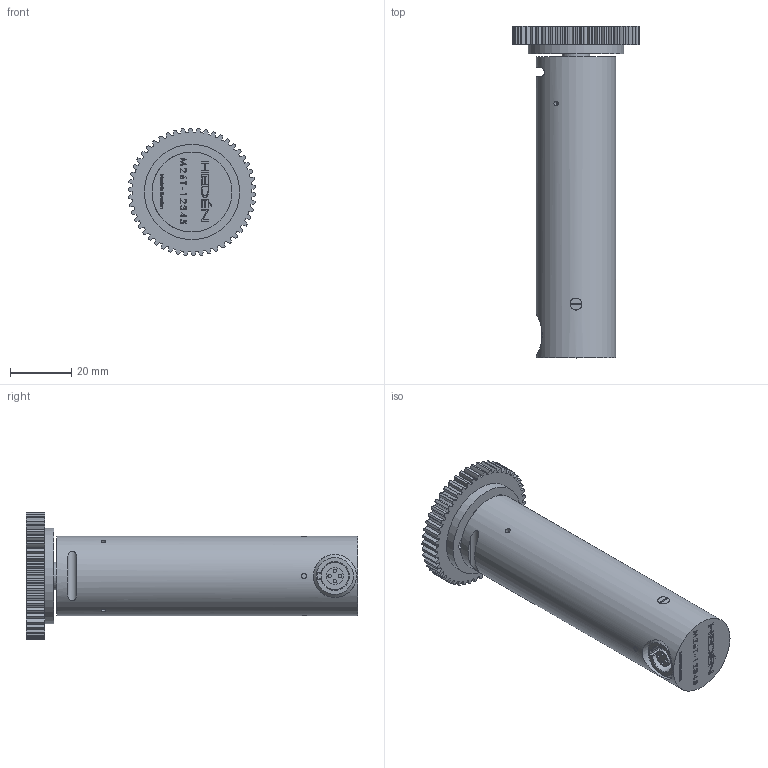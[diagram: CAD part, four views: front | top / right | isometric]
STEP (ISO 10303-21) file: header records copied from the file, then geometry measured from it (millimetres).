
FILE_DESCRIPTION (( 'STEP AP214' ), '1' );
FILE_NAME ('M26T ASSY SPARAD SOM STEP214.STEP', '2017-04-07T13:47:45', ( '' ), ( '' ), 'SwSTEP 2.0', 'SolidWorks 2017', '' );
FILE_SCHEMA (( 'AUTOMOTIVE_DESIGN' ));
Length unit declared in the file: millimetre
Products named in the file (1): M26T ASSY SPARAD SOM STEP214
Bounding box: 41.59 x 108 x 41.6 mm (x, y, z)
Volume: 60836.6 mm3; surface area: 14399.7 mm2
Topology: 1 solids, 1 shells, 771 faces, 2063 edges, 1375 vertices
Faces by surface type: plane 355, cylinder 255, bspline 138, cone 19, torus 2, sphere 2
Full cylindrical faces by diameter (mm): 1.1 x4, 1.6 x10, 3.9 x2, 4 x2, 5.5 x1, 6 x6, 7 x1, 9 x2, 10 x2, 14 x1, 26 x1, 31 x1
Entity records: 39132 total; most frequent: CARTESIAN_POINT 12379, ORIENTED_EDGE 3942, DIRECTION 3457, EDGE_CURVE 1971, VERTEX_POINT 1339, AXIS2_PLACEMENT_3D 1171, VECTOR 1115, LINE 1115
